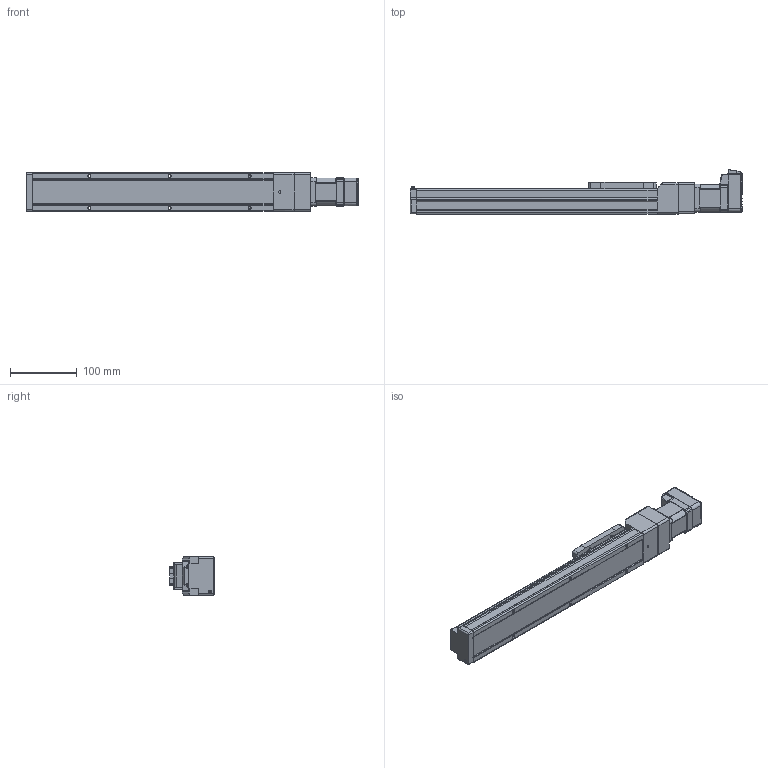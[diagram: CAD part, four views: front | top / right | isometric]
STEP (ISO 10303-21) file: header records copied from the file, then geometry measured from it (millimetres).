
FILE_DESCRIPTION (( 'STEP AP214' ), '1' );
FILE_NAME ('LEFS3(+)-25NM1Œû-250-17L.STEP', '2023-05-31T02:43:47', ( '' ), ( '' ), 'SwSTEP 2.0', 'SolidWorks 2019', '' );
FILE_SCHEMA (( 'AUTOMOTIVE_DESIGN' ));
Length unit declared in the file: millimetre
Products named in the file (5): LEFS3(+)-25NM1_TABLE; CM3(+)-17L50A; LEFS3(+)-25NM1_MOTOR Flange; LEFS3(+)-25NM1仩_BODY_250; LEFS3(+)-25NM1口-250-17L
Assembly tree (4 placements, depth 2):
  LEFS3(+)-25NM1口-250-17L
    LEFS3(+)-25NM1仩_BODY_250
    LEFS3(+)-25NM1_TABLE
    LEFS3(+)-25NM1_MOTOR Flange
    CM3(+)-17L50A
Bounding box: 497.3 x 66.75 x 58 mm (x, y, z)
Volume: 1010974.2 mm3; surface area: 138466.4 mm2
Topology: 5 solids, 5 shells, 991 faces, 2554 edges, 1608 vertices
Faces by surface type: plane 513, cylinder 306, cone 83, torus 39, bspline 29, sphere 21
Entity records: 40232 total; most frequent: CARTESIAN_POINT 7344, ORIENTED_EDGE 5046, DIRECTION 4854, EDGE_CURVE 2523, AXIS2_PLACEMENT_3D 1630, VERTEX_POINT 1608, LINE 1594, VECTOR 1594
